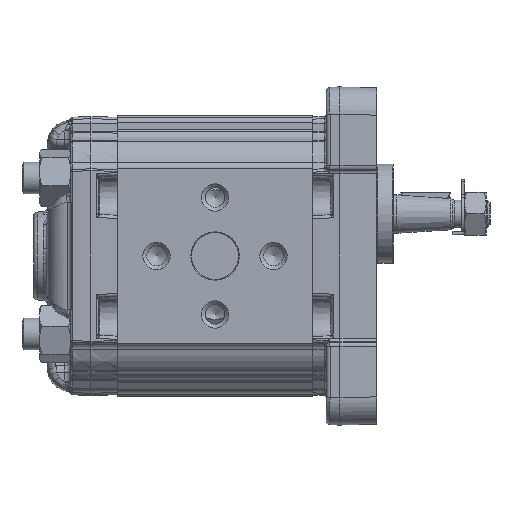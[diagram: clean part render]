
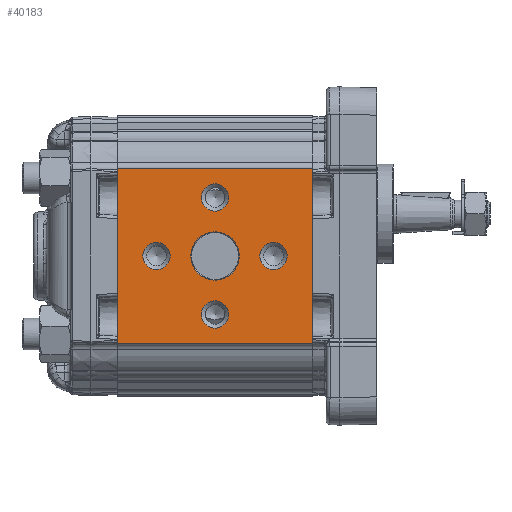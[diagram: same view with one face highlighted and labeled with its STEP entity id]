
A CAD part, left-side view. The second image highlights one B-rep face of the part: STEP entity #40183.
In plain terms, the highlighted planar face has unit normal (-1, 0, 0).
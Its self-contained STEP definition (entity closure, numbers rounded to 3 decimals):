
#3918=LINE('',#93940,#5881);
#3928=LINE('',#94041,#5891);
#3947=LINE('',#94089,#5910);
#3948=LINE('',#94091,#5911);
#5881=VECTOR('',#70737,1000.);
#5891=VECTOR('',#70829,1000.);
#5910=VECTOR('',#70884,1000.);
#5911=VECTOR('',#70887,1000.);
#7323=PLANE('',#62902);
#12964=ORIENTED_EDGE('',*,*,#22570,.T.);
#12965=ORIENTED_EDGE('',*,*,#22571,.T.);
#12966=ORIENTED_EDGE('',*,*,#22572,.T.);
#12967=ORIENTED_EDGE('',*,*,#22573,.T.);
#12968=ORIENTED_EDGE('',*,*,#22574,.T.);
#12969=ORIENTED_EDGE('',*,*,#22550,.T.);
#12970=ORIENTED_EDGE('',*,*,#22522,.T.);
#12971=ORIENTED_EDGE('',*,*,#22551,.T.);
#12972=ORIENTED_EDGE('',*,*,#22472,.F.);
#22472=EDGE_CURVE('',#27608,#27609,#3918,.T.);
#22522=EDGE_CURVE('',#27659,#27658,#3928,.T.);
#22550=EDGE_CURVE('',#27608,#27659,#3947,.T.);
#22551=EDGE_CURVE('',#27658,#27609,#3948,.F.);
#22570=EDGE_CURVE('',#27678,#27678,#30879,.F.);
#22571=EDGE_CURVE('',#27679,#27679,#30880,.F.);
#22572=EDGE_CURVE('',#27680,#27680,#30881,.F.);
#22573=EDGE_CURVE('',#27681,#27681,#30882,.F.);
#22574=EDGE_CURVE('',#27682,#27682,#30883,.F.);
#27608=VERTEX_POINT('',#93939);
#27609=VERTEX_POINT('',#93941);
#27658=VERTEX_POINT('',#94040);
#27659=VERTEX_POINT('',#94042);
#27678=VERTEX_POINT('',#94214);
#27679=VERTEX_POINT('',#94216);
#27680=VERTEX_POINT('',#94218);
#27681=VERTEX_POINT('',#94220);
#27682=VERTEX_POINT('',#94222);
#30879=CIRCLE('',#62903,3.5);
#30880=CIRCLE('',#62904,3.5);
#30881=CIRCLE('',#62905,3.5);
#30882=CIRCLE('',#62906,3.5);
#30883=CIRCLE('',#62907,6.2);
#33432=EDGE_LOOP('',(#12964));
#33433=EDGE_LOOP('',(#12965));
#33434=EDGE_LOOP('',(#12966));
#33435=EDGE_LOOP('',(#12967));
#33436=EDGE_LOOP('',(#12968));
#33437=EDGE_LOOP('',(#12969,#12970,#12971,#12972));
#36477=FACE_BOUND('',#33432,.T.);
#36478=FACE_BOUND('',#33433,.T.);
#36479=FACE_BOUND('',#33434,.T.);
#36480=FACE_BOUND('',#33435,.T.);
#36481=FACE_BOUND('',#33436,.T.);
#36482=FACE_BOUND('',#33437,.T.);
#40183=ADVANCED_FACE('',(#36477,#36478,#36479,#36480,#36481,#36482),#7323,
 .T.);
#62902=AXIS2_PLACEMENT_3D('',#94212,#70930,#70931);
#62903=AXIS2_PLACEMENT_3D('',#94213,#70932,#70933);
#62904=AXIS2_PLACEMENT_3D('',#94215,#70934,#70935);
#62905=AXIS2_PLACEMENT_3D('',#94217,#70936,#70937);
#62906=AXIS2_PLACEMENT_3D('',#94219,#70938,#70939);
#62907=AXIS2_PLACEMENT_3D('',#94221,#70940,#70941);
#70737=DIRECTION('',(0.,0.,1.));
#70829=DIRECTION('',(0.,0.,1.));
#70884=DIRECTION('',(0.,-1.,0.));
#70887=DIRECTION('',(0.,-1.,0.));
#70930=DIRECTION('',(-1.,0.,0.));
#70931=DIRECTION('',(0.,0.,1.));
#70932=DIRECTION('',(-1.,0.,0.));
#70933=DIRECTION('',(0.,0.,1.));
#70934=DIRECTION('',(-1.,0.,0.));
#70935=DIRECTION('',(0.,0.,1.));
#70936=DIRECTION('',(-1.,0.,0.));
#70937=DIRECTION('',(0.,0.,1.));
#70938=DIRECTION('',(-1.,0.,0.));
#70939=DIRECTION('',(0.,0.,1.));
#70940=DIRECTION('',(-1.,0.,0.));
#70941=DIRECTION('',(0.,0.,1.));
#93939=CARTESIAN_POINT('',(-33.,50.,-22.5));
#93940=CARTESIAN_POINT('',(-33.,50.,-21.711));
#93941=CARTESIAN_POINT('',(-33.,50.,22.5));
#94040=CARTESIAN_POINT('',(-33.,0.,22.5));
#94041=CARTESIAN_POINT('',(-33.,0.,-21.711));
#94042=CARTESIAN_POINT('',(-33.,0.,-22.5));
#94089=CARTESIAN_POINT('',(-33.,50.,-22.5));
#94091=CARTESIAN_POINT('',(-33.,50.,22.5));
#94212=CARTESIAN_POINT('',(-33.,127.919,48.138));
#94213=CARTESIAN_POINT('',(-33.,25.,-15.));
#94214=CARTESIAN_POINT('',(-33.,25.,-11.5));
#94215=CARTESIAN_POINT('',(-33.,10.,0.));
#94216=CARTESIAN_POINT('',(-33.,10.,3.5));
#94217=CARTESIAN_POINT('',(-33.,25.,15.));
#94218=CARTESIAN_POINT('',(-33.,25.,18.5));
#94219=CARTESIAN_POINT('',(-33.,40.,0.));
#94220=CARTESIAN_POINT('',(-33.,40.,3.5));
#94221=CARTESIAN_POINT('',(-33.,25.,0.));
#94222=CARTESIAN_POINT('',(-33.,25.,6.2));
